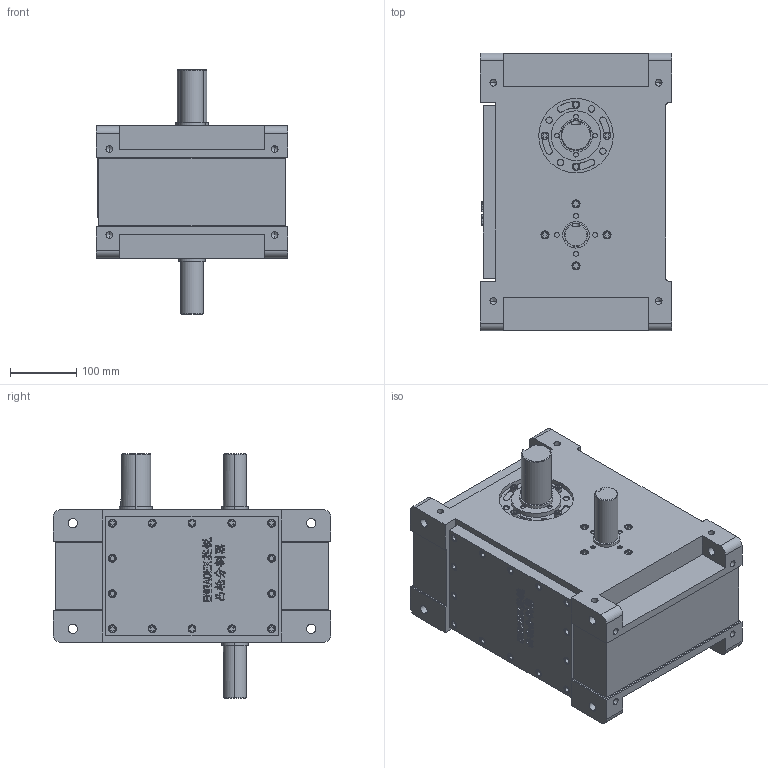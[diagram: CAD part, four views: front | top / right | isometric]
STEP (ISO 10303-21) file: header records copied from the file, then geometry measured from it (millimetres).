
FILE_DESCRIPTION (( 'STEP AP214' ), '1' );
FILE_NAME ('ER-PU150DS英锐凸轮分割器3D标准图纸(电话15062628977)A.STEP', '2022-10-27T08:38:09', ( '微软用户' ), ( '微软中国' ), 'SwSTEP 2.0', 'SolidWorks 2017', '' );
FILE_SCHEMA (( 'AUTOMOTIVE_DESIGN' ));
Length unit declared in the file: millimetre
Products named in the file (1): ER-PU150DS英锐凸轮分割器3D标准图纸(电话15062628977)A
Bounding box: 290 x 420 x 370 mm (x, y, z)
Volume: 21717690.5 mm3; surface area: 639763.7 mm2
Topology: 1 solids, 1 shells, 1056 faces, 2574 edges, 1666 vertices
Faces by surface type: plane 506, cylinder 300, bspline 149, torus 60, cone 41
Entity records: 50960 total; most frequent: CARTESIAN_POINT 21001, ORIENTED_EDGE 5084, DIRECTION 4806, EDGE_CURVE 2542, AXIS2_PLACEMENT_3D 1672, VERTEX_POINT 1666, LINE 1462, VECTOR 1462
